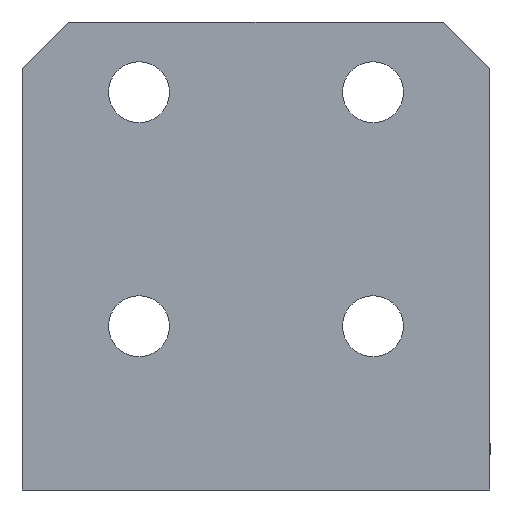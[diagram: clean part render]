
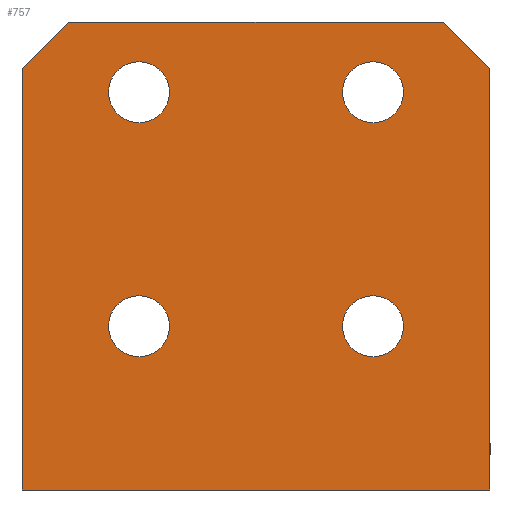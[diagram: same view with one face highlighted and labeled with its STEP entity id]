
A CAD part, front view. The second image highlights one B-rep face of the part: STEP entity #757.
In plain terms, the highlighted planar face has unit normal (0, -1, 0).
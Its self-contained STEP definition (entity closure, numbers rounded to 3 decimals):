
#10 = VERTEX_POINT ( 'NONE', #1135 ) ;
#14 = DIRECTION ( 'NONE',  ( 0., 1., 0. ) ) ;
#20 = EDGE_CURVE ( 'NONE', #1162, #10, #70, .T. ) ;
#32 = CIRCLE ( 'NONE', #1051, 3.25 ) ;
#44 = AXIS2_PLACEMENT_3D ( 'NONE', #238, #472, #690 ) ;
#51 = LINE ( 'NONE', #697, #616 ) ;
#52 = ORIENTED_EDGE ( 'NONE', *, *, #437, .F. ) ;
#59 = DIRECTION ( 'NONE',  ( 0., 0., -1. ) ) ;
#64 = EDGE_LOOP ( 'NONE', ( #806, #1299 ) ) ;
#70 = LINE ( 'NONE', #679, #1079 ) ;
#78 = ORIENTED_EDGE ( 'NONE', *, *, #1321, .T. ) ;
#86 = CARTESIAN_POINT ( 'NONE',  ( 25., 0., 0. ) ) ;
#87 = VERTEX_POINT ( 'NONE', #1166 ) ;
#102 = DIRECTION ( 'NONE',  ( 0., -1., 0. ) ) ;
#104 = EDGE_CURVE ( 'NONE', #510, #901, #32, .T. ) ;
#105 = VECTOR ( 'NONE', #1456, 1000. ) ;
#137 = CARTESIAN_POINT ( 'NONE',  ( -12.5, 0., 42.5 ) ) ;
#138 = VERTEX_POINT ( 'NONE', #367 ) ;
#157 = VERTEX_POINT ( 'NONE', #717 ) ;
#165 = FACE_BOUND ( 'NONE', #64, .T. ) ;
#204 = EDGE_LOOP ( 'NONE', ( #1452, #244 ) ) ;
#212 = LINE ( 'NONE', #1140, #1394 ) ;
#217 = CIRCLE ( 'NONE', #1161, 3.25 ) ;
#238 = CARTESIAN_POINT ( 'NONE',  ( -12.5, 0., 17.5 ) ) ;
#244 = ORIENTED_EDGE ( 'NONE', *, *, #1095, .F. ) ;
#265 = VERTEX_POINT ( 'NONE', #1181 ) ;
#266 = DIRECTION ( 'NONE',  ( 0., 0., 1. ) ) ;
#277 = CARTESIAN_POINT ( 'NONE',  ( -25., 0., 0. ) ) ;
#278 = CARTESIAN_POINT ( 'NONE',  ( 12.5, 0., 20.75 ) ) ;
#305 = VERTEX_POINT ( 'NONE', #277 ) ;
#367 = CARTESIAN_POINT ( 'NONE',  ( 12.5, 0., 14.25 ) ) ;
#437 = EDGE_CURVE ( 'NONE', #1264, #305, #644, .T. ) ;
#446 = LINE ( 'NONE', #1359, #105 ) ;
#459 = DIRECTION ( 'NONE',  ( -0.707, 0., -0.707 ) ) ;
#461 = VERTEX_POINT ( 'NONE', #1222 ) ;
#472 = DIRECTION ( 'NONE',  ( 0., -1., 0. ) ) ;
#476 = AXIS2_PLACEMENT_3D ( 'NONE', #571, #820, #911 ) ;
#482 = EDGE_CURVE ( 'NONE', #1162, #1264, #446, .T. ) ;
#493 = LINE ( 'NONE', #621, #1431 ) ;
#496 = CARTESIAN_POINT ( 'NONE',  ( 25., 0., 0. ) ) ;
#500 = VERTEX_POINT ( 'NONE', #1451 ) ;
#510 = VERTEX_POINT ( 'NONE', #1352 ) ;
#512 = CIRCLE ( 'NONE', #553, 3.25 ) ;
#513 = CARTESIAN_POINT ( 'NONE',  ( 12.5, 0., 42.5 ) ) ;
#549 = DIRECTION ( 'NONE',  ( -1., 0., 0. ) ) ;
#553 = AXIS2_PLACEMENT_3D ( 'NONE', #1301, #634, #1436 ) ;
#556 = DIRECTION ( 'NONE',  ( 0., 0., -1. ) ) ;
#571 = CARTESIAN_POINT ( 'NONE',  ( -12.5, 0., 17.5 ) ) ;
#585 = EDGE_CURVE ( 'NONE', #265, #733, #1200, .T. ) ;
#607 = EDGE_CURVE ( 'NONE', #10, #157, #51, .T. ) ;
#612 = CARTESIAN_POINT ( 'NONE',  ( -12.5, 0., 20.75 ) ) ;
#616 = VECTOR ( 'NONE', #1263, 1000. ) ;
#621 = CARTESIAN_POINT ( 'NONE',  ( -25., 0., 0. ) ) ;
#624 = ORIENTED_EDGE ( 'NONE', *, *, #607, .T. ) ;
#634 = DIRECTION ( 'NONE',  ( 0., -1., 0. ) ) ;
#641 = ORIENTED_EDGE ( 'NONE', *, *, #482, .F. ) ;
#644 = LINE ( 'NONE', #86, #794 ) ;
#676 = AXIS2_PLACEMENT_3D ( 'NONE', #496, #14, #266 ) ;
#679 = CARTESIAN_POINT ( 'NONE',  ( 25., 0., 45. ) ) ;
#688 = FACE_BOUND ( 'NONE', #948, .T. ) ;
#690 = DIRECTION ( 'NONE',  ( 0., 0., -1. ) ) ;
#693 = DIRECTION ( 'NONE',  ( -0.707, 0., 0.707 ) ) ;
#697 = CARTESIAN_POINT ( 'NONE',  ( 25., 0., 50. ) ) ;
#717 = CARTESIAN_POINT ( 'NONE',  ( -20., 0., 50. ) ) ;
#731 = DIRECTION ( 'NONE',  ( 0., 0., -1. ) ) ;
#733 = VERTEX_POINT ( 'NONE', #612 ) ;
#757 = ADVANCED_FACE ( 'NONE', ( #165, #1267, #688, #937, #900 ), #844, .F. ) ;
#794 = VECTOR ( 'NONE', #549, 1000. ) ;
#806 = ORIENTED_EDGE ( 'NONE', *, *, #886, .F. ) ;
#815 = AXIS2_PLACEMENT_3D ( 'NONE', #1108, #1347, #1334 ) ;
#820 = DIRECTION ( 'NONE',  ( 0., -1., 0. ) ) ;
#844 = PLANE ( 'NONE',  #676 ) ;
#856 = VERTEX_POINT ( 'NONE', #278 ) ;
#875 = EDGE_CURVE ( 'NONE', #500, #87, #984, .T. ) ;
#886 = EDGE_CURVE ( 'NONE', #901, #510, #952, .T. ) ;
#900 = FACE_OUTER_BOUND ( 'NONE', #1209, .T. ) ;
#901 = VERTEX_POINT ( 'NONE', #1467 ) ;
#911 = DIRECTION ( 'NONE',  ( 0., 0., -1. ) ) ;
#937 = FACE_BOUND ( 'NONE', #977, .T. ) ;
#948 = EDGE_LOOP ( 'NONE', ( #1404, #1107 ) ) ;
#952 = CIRCLE ( 'NONE', #1206, 3.25 ) ;
#963 = CARTESIAN_POINT ( 'NONE',  ( 25., 0., 0. ) ) ;
#977 = EDGE_LOOP ( 'NONE', ( #1341, #1478 ) ) ;
#984 = CIRCLE ( 'NONE', #1314, 3.25 ) ;
#1051 = AXIS2_PLACEMENT_3D ( 'NONE', #137, #1403, #1273 ) ;
#1061 = CIRCLE ( 'NONE', #815, 3.25 ) ;
#1079 = VECTOR ( 'NONE', #693, 1000. ) ;
#1095 = EDGE_CURVE ( 'NONE', #733, #265, #1441, .T. ) ;
#1107 = ORIENTED_EDGE ( 'NONE', *, *, #1292, .F. ) ;
#1108 = CARTESIAN_POINT ( 'NONE',  ( 12.5, 0., 42.5 ) ) ;
#1135 = CARTESIAN_POINT ( 'NONE',  ( 20., 0., 50. ) ) ;
#1136 = EDGE_CURVE ( 'NONE', #157, #461, #212, .T. ) ;
#1140 = CARTESIAN_POINT ( 'NONE',  ( -20., 0., 50. ) ) ;
#1160 = ORIENTED_EDGE ( 'NONE', *, *, #20, .T. ) ;
#1161 = AXIS2_PLACEMENT_3D ( 'NONE', #1296, #1196, #731 ) ;
#1162 = VERTEX_POINT ( 'NONE', #1293 ) ;
#1166 = CARTESIAN_POINT ( 'NONE',  ( 12.5, 0., 45.75 ) ) ;
#1181 = CARTESIAN_POINT ( 'NONE',  ( -12.5, 0., 14.25 ) ) ;
#1196 = DIRECTION ( 'NONE',  ( 0., -1., 0. ) ) ;
#1200 = CIRCLE ( 'NONE', #44, 3.25 ) ;
#1206 = AXIS2_PLACEMENT_3D ( 'NONE', #1447, #102, #556 ) ;
#1209 = EDGE_LOOP ( 'NONE', ( #624, #1445, #78, #52, #641, #1160 ) ) ;
#1222 = CARTESIAN_POINT ( 'NONE',  ( -25., 0., 45. ) ) ;
#1263 = DIRECTION ( 'NONE',  ( -1., 0., 0. ) ) ;
#1264 = VERTEX_POINT ( 'NONE', #963 ) ;
#1267 = FACE_BOUND ( 'NONE', #204, .T. ) ;
#1273 = DIRECTION ( 'NONE',  ( 0., 0., -1. ) ) ;
#1292 = EDGE_CURVE ( 'NONE', #856, #138, #217, .T. ) ;
#1293 = CARTESIAN_POINT ( 'NONE',  ( 25., 0., 45. ) ) ;
#1296 = CARTESIAN_POINT ( 'NONE',  ( 12.5, 0., 17.5 ) ) ;
#1299 = ORIENTED_EDGE ( 'NONE', *, *, #104, .F. ) ;
#1301 = CARTESIAN_POINT ( 'NONE',  ( 12.5, 0., 17.5 ) ) ;
#1314 = AXIS2_PLACEMENT_3D ( 'NONE', #513, #1351, #1356 ) ;
#1321 = EDGE_CURVE ( 'NONE', #461, #305, #493, .T. ) ;
#1334 = DIRECTION ( 'NONE',  ( 0., 0., -1. ) ) ;
#1341 = ORIENTED_EDGE ( 'NONE', *, *, #875, .F. ) ;
#1347 = DIRECTION ( 'NONE',  ( 0., -1., 0. ) ) ;
#1351 = DIRECTION ( 'NONE',  ( 0., -1., 0. ) ) ;
#1352 = CARTESIAN_POINT ( 'NONE',  ( -12.5, 0., 45.75 ) ) ;
#1354 = EDGE_CURVE ( 'NONE', #138, #856, #512, .T. ) ;
#1356 = DIRECTION ( 'NONE',  ( 0., 0., -1. ) ) ;
#1359 = CARTESIAN_POINT ( 'NONE',  ( 25., 0., 0. ) ) ;
#1394 = VECTOR ( 'NONE', #459, 1000. ) ;
#1403 = DIRECTION ( 'NONE',  ( 0., -1., 0. ) ) ;
#1404 = ORIENTED_EDGE ( 'NONE', *, *, #1354, .F. ) ;
#1431 = VECTOR ( 'NONE', #59, 1000. ) ;
#1436 = DIRECTION ( 'NONE',  ( 0., 0., -1. ) ) ;
#1441 = CIRCLE ( 'NONE', #476, 3.25 ) ;
#1445 = ORIENTED_EDGE ( 'NONE', *, *, #1136, .T. ) ;
#1447 = CARTESIAN_POINT ( 'NONE',  ( -12.5, 0., 42.5 ) ) ;
#1451 = CARTESIAN_POINT ( 'NONE',  ( 12.5, 0., 39.25 ) ) ;
#1452 = ORIENTED_EDGE ( 'NONE', *, *, #585, .F. ) ;
#1456 = DIRECTION ( 'NONE',  ( 0., 0., -1. ) ) ;
#1467 = CARTESIAN_POINT ( 'NONE',  ( -12.5, 0., 39.25 ) ) ;
#1470 = EDGE_CURVE ( 'NONE', #87, #500, #1061, .T. ) ;
#1478 = ORIENTED_EDGE ( 'NONE', *, *, #1470, .F. ) ;
